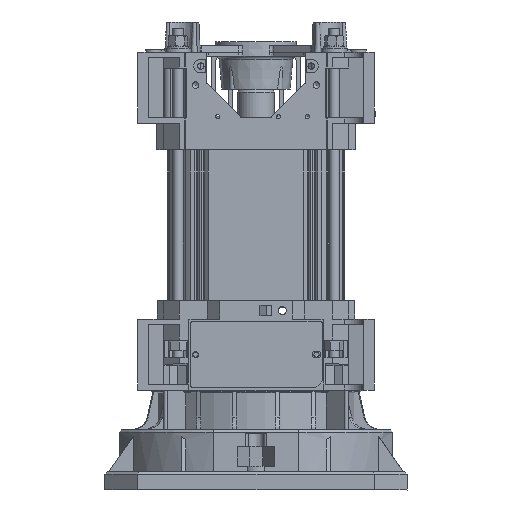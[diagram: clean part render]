
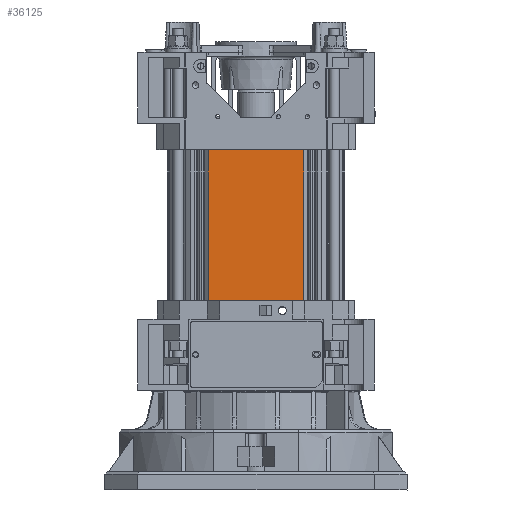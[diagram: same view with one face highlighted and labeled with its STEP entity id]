
A CAD part, left-side view. The second image highlights one B-rep face of the part: STEP entity #36125.
In plain terms, the highlighted planar face has unit normal (-1, 0, 0).
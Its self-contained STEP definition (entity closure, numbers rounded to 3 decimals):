
#4036=LINE('',#63076,#7299);
#4038=LINE('',#63080,#7301);
#4039=LINE('',#63082,#7302);
#4040=LINE('',#63083,#7303);
#7299=VECTOR('',#49946,10.);
#7301=VECTOR('',#49950,10.);
#7302=VECTOR('',#49951,10.);
#7303=VECTOR('',#49952,10.);
#8527=PLANE('',#39788);
#10637=FACE_OUTER_BOUND('',#12807,.T.);
#12807=EDGE_LOOP('',(#33050,#33051,#33052,#33053));
#17760=VERTEX_POINT('',#63073);
#17761=VERTEX_POINT('',#63075);
#17762=VERTEX_POINT('',#63079);
#17763=VERTEX_POINT('',#63081);
#22919=EDGE_CURVE('',#17761,#17760,#4036,.T.);
#22921=EDGE_CURVE('',#17760,#17762,#4038,.T.);
#22922=EDGE_CURVE('',#17763,#17762,#4039,.T.);
#22923=EDGE_CURVE('',#17763,#17761,#4040,.T.);
#33050=ORIENTED_EDGE('',*,*,#22921,.T.);
#33051=ORIENTED_EDGE('',*,*,#22922,.F.);
#33052=ORIENTED_EDGE('',*,*,#22923,.T.);
#33053=ORIENTED_EDGE('',*,*,#22919,.T.);
#36125=ADVANCED_FACE('',(#10637),#8527,.T.);
#39788=AXIS2_PLACEMENT_3D('',#63078,#49948,#49949);
#49946=DIRECTION('',(0.,0.,1.));
#49948=DIRECTION('center_axis',(-1.,0.,0.));
#49949=DIRECTION('ref_axis',(0.,0.,1.));
#49950=DIRECTION('',(0.,1.,0.));
#49951=DIRECTION('',(0.,0.,1.));
#49952=DIRECTION('',(0.,-1.,0.));
#63073=CARTESIAN_POINT('',(6476.011,-1945.032,125.));
#63075=CARTESIAN_POINT('',(6476.011,-1945.032,0.));
#63076=CARTESIAN_POINT('',(6476.011,-1945.032,0.));
#63078=CARTESIAN_POINT('Origin',(6476.011,-1945.032,0.));
#63079=CARTESIAN_POINT('',(6476.011,-1872.567,125.));
#63080=CARTESIAN_POINT('',(6476.011,-1872.567,125.));
#63081=CARTESIAN_POINT('',(6476.011,-1872.567,0.));
#63082=CARTESIAN_POINT('',(6476.011,-1872.567,0.));
#63083=CARTESIAN_POINT('',(6476.011,-1872.567,0.));
